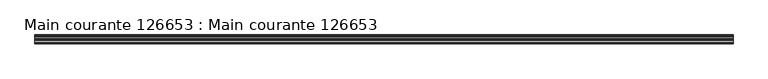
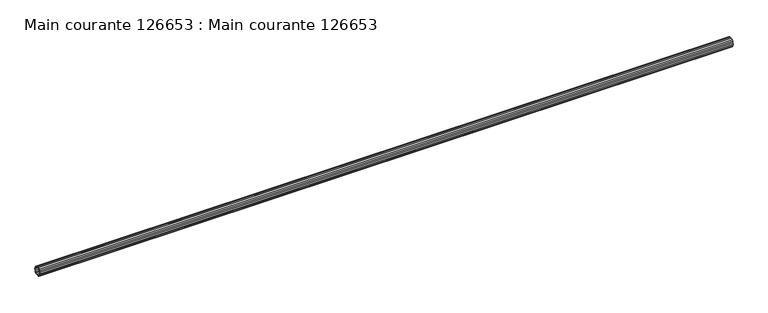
"""IFC4 building model written with IfcOpenShell, lengths in millimetres: beam geometry, Main courante 126653 : Main courante 126653."""

from ifc_helpers import new_model, si_unit, frame, origin, place, context, project, spatial, polyline, outline, extrude, source, transform, mapped, element, save


def main_courante_126653_main_courante_126653_25b81309(model_context):
    return source(origin(), model_context, "Body", "SweptSolid", [
        extrude(outline(polyline([(-24939.3127604, 9262.9680149), (-24931.85, 9264.15), (-24924.3872396, 9262.9680149), (-24917.6549862, 9259.5377604), (-24912.3122396, 9254.1950138), (-24908.8819851, 9247.4627604), (-24907.7, 9240.0), (-24908.8819851, 9232.5372396), (-24912.3122396, 9225.8049862), (-24917.6549862, 9220.4622396), (-24924.3872396, 9217.0319851), (-24931.85, 9215.85), (-24939.3127604, 9217.0319851), (-24946.0450138, 9220.4622396), (-24951.3877604, 9225.8049862), (-24954.8180149, 9232.5372396), (-24956.0, 9240.0), (-24954.8180149, 9247.4627604), (-24951.3877604, 9254.1950138), (-24946.0450138, 9259.5377604), (-24939.3127604, 9262.9680149)]), holes=[polyline([(-24910.2, 9240.0), (-24911.2596264, 9246.6902179), (-24914.3347821, 9252.7255507), (-24919.1244493, 9257.5152179), (-24925.1597821, 9260.5903736), (-24931.85, 9261.65), (-24938.5402179, 9260.5903736), (-24944.5755507, 9257.5152179), (-24949.3652179, 9252.7255507), (-24952.4403736, 9246.6902179), (-24953.5, 9240.0), (-24952.4403736, 9233.3097821), (-24949.3652179, 9227.2744493), (-24944.5755507, 9222.4847821), (-24938.5402179, 9219.4096264), (-24931.85, 9218.35), (-24925.1597821, 9219.4096264), (-24919.1244493, 9222.4847821), (-24914.3347821, 9227.2744493), (-24911.2596264, 9233.3097821), (-24910.2, 9240.0)])]), frame((-40.0000001, 0.0, 0.0), z_axis=(1.0, 0.0, 0.0), x_axis=(0.0, 1.0, 0.0)), (0.0, 0.0, 1.0), 3722.5),
    ])


if __name__ == "__main__":
    model = new_model("IFC4")
    model_context = context("Model", 3, world=origin())
    ifc_project = project(units=[si_unit("LENGTHUNIT", "METRE", prefix="MILLI")], contexts=[model_context])
    site = spatial("IfcSite", under=ifc_project)
    building = spatial("IfcBuilding", under=site)
    placement = place(None, origin())
    main_courante_126653_main_courante_126653_shape = main_courante_126653_main_courante_126653_25b81309(model_context)
    element("IfcBeam", 1, ObjectType="Main courante 126653 : Main courante 126653", at=placement, inside=building, context=model_context, shape_type="MappedRepresentation", body=[
        mapped(main_courante_126653_main_courante_126653_shape, transform((0.0, 0.0, 0.0), x_axis=(1.0, 0.0, 0.0), y_axis=(0.0, 1.0, 0.0), z_axis=(0.0, 0.0, 1.0))),
    ])
    save(model, "model.ifc")
